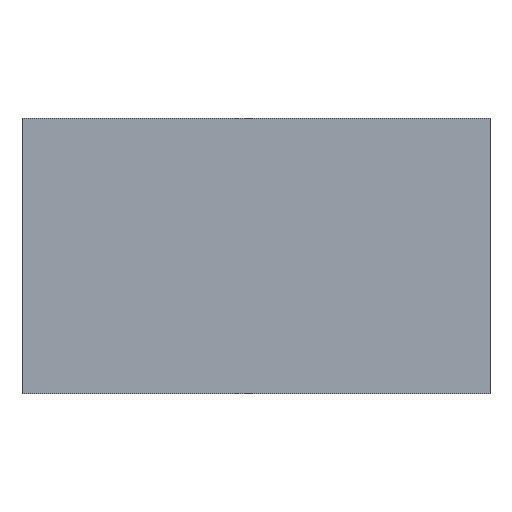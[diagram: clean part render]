
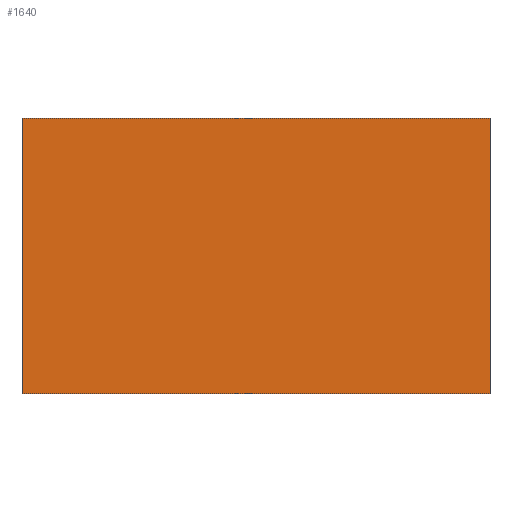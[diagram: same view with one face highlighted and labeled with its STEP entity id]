
A CAD part, left-side view. The second image highlights one B-rep face of the part: STEP entity #1640.
In plain terms, the highlighted planar face has unit normal (-1, 0, 0).
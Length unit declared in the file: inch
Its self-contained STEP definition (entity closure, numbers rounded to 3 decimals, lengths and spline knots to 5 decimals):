
#251=FACE_OUTER_BOUND('',#348,.T.);
#348=EDGE_LOOP('',(#1498,#1499,#1500,#1501));
#472=LINE('',#2959,#617);
#491=LINE('',#3134,#636);
#496=LINE('',#3143,#641);
#497=LINE('',#3144,#642);
#617=VECTOR('',#1925,0.3937);
#636=VECTOR('',#2024,0.3937);
#641=VECTOR('',#2035,0.3937);
#642=VECTOR('',#2036,0.3937);
#763=VERTEX_POINT('',#2952);
#766=VERTEX_POINT('',#2957);
#796=VERTEX_POINT('',#3130);
#798=VERTEX_POINT('',#3133);
#983=EDGE_CURVE('',#763,#766,#472,.T.);
#1031=EDGE_CURVE('',#796,#798,#491,.T.);
#1036=EDGE_CURVE('',#796,#763,#496,.T.);
#1037=EDGE_CURVE('',#798,#766,#497,.T.);
#1498=ORIENTED_EDGE('',*,*,#1036,.T.);
#1499=ORIENTED_EDGE('',*,*,#983,.T.);
#1500=ORIENTED_EDGE('',*,*,#1037,.F.);
#1501=ORIENTED_EDGE('',*,*,#1031,.F.);
#1552=PLANE('',#1733);
#1640=ADVANCED_FACE('',(#251),#1552,.T.);
#1733=AXIS2_PLACEMENT_3D('',#3142,#2033,#2034);
#1925=DIRECTION('',(0.,1.,0.));
#2024=DIRECTION('',(0.,1.,0.));
#2033=DIRECTION('center_axis',(-1.,0.,0.));
#2034=DIRECTION('ref_axis',(0.,0.,1.));
#2035=DIRECTION('',(0.,0.,1.));
#2036=DIRECTION('',(0.,0.,1.));
#2952=CARTESIAN_POINT('',(0.,0.,0.787));
#2957=CARTESIAN_POINT('',(0.,1.338,0.787));
#2959=CARTESIAN_POINT('',(0.,0.,0.787));
#3130=CARTESIAN_POINT('',(0.,0.,0.));
#3133=CARTESIAN_POINT('',(0.,1.338,0.));
#3134=CARTESIAN_POINT('',(0.,0.,0.));
#3142=CARTESIAN_POINT('Origin',(0.,0.,0.));
#3143=CARTESIAN_POINT('',(0.,0.,0.));
#3144=CARTESIAN_POINT('',(0.,1.338,0.));
